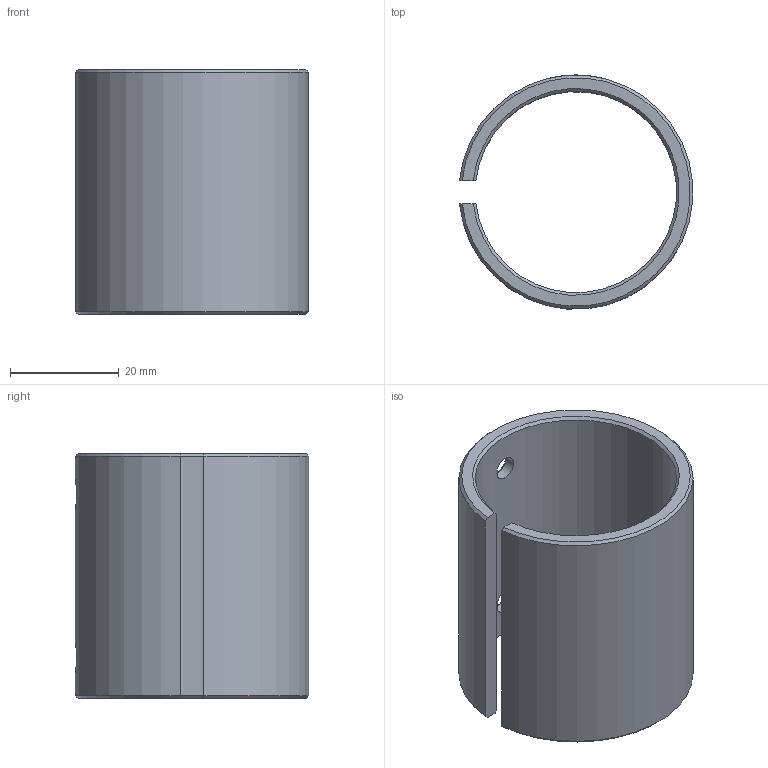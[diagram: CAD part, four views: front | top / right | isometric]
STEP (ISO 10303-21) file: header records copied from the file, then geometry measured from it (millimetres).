
FILE_DESCRIPTION(/* description */ (''),/* implementation_level */ '2;1');
FILE_NAME(/* name */ 'TRAYLOADER.82.stp',/* time_stamp */ '2025-05-12T16:09:51+02:00',/* author */ (''),/* organization */ (''),/* preprocessor_version */ 'ST-DEVELOPER v19.4',/* originating_system */ 'SIEMENS PLM Software NX2306.5001',/* authorisation */ '');
FILE_SCHEMA (('AP203_CONFIGURATION_CONTROLLED_3D_DESIGN_OF_MECHANICAL_PARTS_AND_ASSEMBLIES_MIM_LF { 1 0 10303 403 2 1 2}'));
Length unit declared in the file: millimetre
Products named in the file (1): TRAYLOADER.82_objects
Bounding box: 42.81 x 42.93 x 45 mm (x, y, z)
Volume: 16224.4 mm3; surface area: 11788.6 mm2
Topology: 1 solids, 1 shells, 14 faces, 36 edges, 24 vertices
Faces by surface type: cylinder 4, plane 4, cone 4, bspline 2
Full cylindrical faces by diameter (mm): 4.3 x2
Entity records: 1234 total; most frequent: CARTESIAN_POINT 851, ORIENTED_EDGE 60, DIRECTION 50, EDGE_CURVE 30, EDGE_LOOP 22, VERTEX_POINT 22, AXIS2_PLACEMENT_3D 21, ADVANCED_FACE 14
